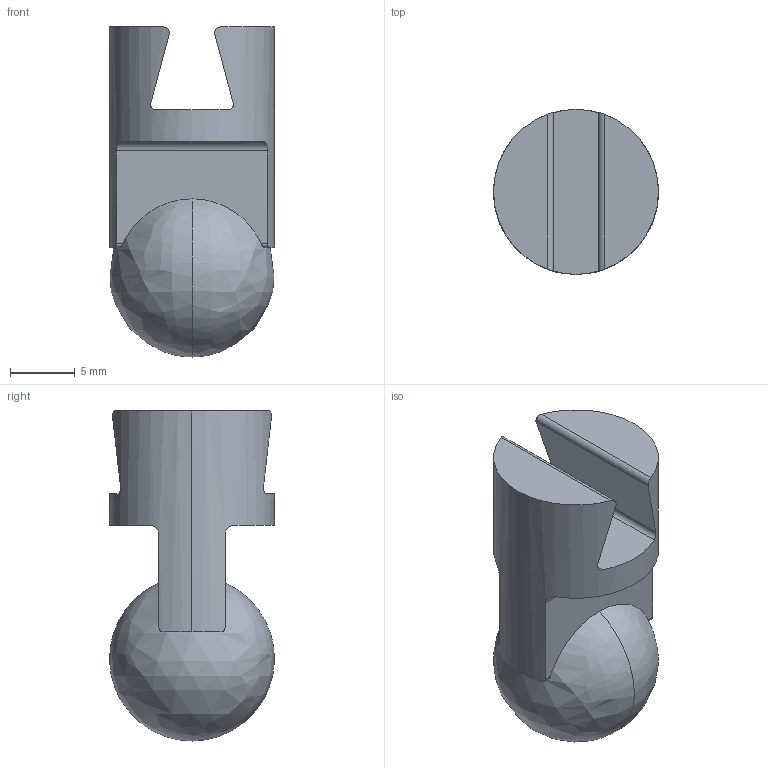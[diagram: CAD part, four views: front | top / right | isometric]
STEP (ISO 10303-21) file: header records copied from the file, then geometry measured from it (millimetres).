
FILE_DESCRIPTION (( 'STEP AP203' ), '1' );
FILE_NAME ('ALA14_14MM-ADAPTOR_BALL.STEP', '2020-12-17T20:46:17', ( '' ), ( '' ), 'SwSTEP 2.0', 'SolidWorks 2020', '' );
FILE_SCHEMA (( 'CONFIG_CONTROL_DESIGN' ));
Length unit declared in the file: inch
Products named in the file (1): ALA14_14MM-ADAPTOR_BALL
Bounding box: 12.7 x 12.7 x 25.4 mm (x, y, z)
Volume: 2139 mm3; surface area: 1313.8 mm2
Topology: 1 solids, 1 shells, 27 faces, 78 edges, 51 vertices
Faces by surface type: cylinder 12, plane 11, bspline 4
Entity records: 1133 total; most frequent: CARTESIAN_POINT 417, ORIENTED_EDGE 152, DIRECTION 110, EDGE_CURVE 76, VERTEX_POINT 51, AXIS2_PLACEMENT_3D 42, B_SPLINE_CURVE_WITH_KNOTS 28, ADVANCED_FACE 27
